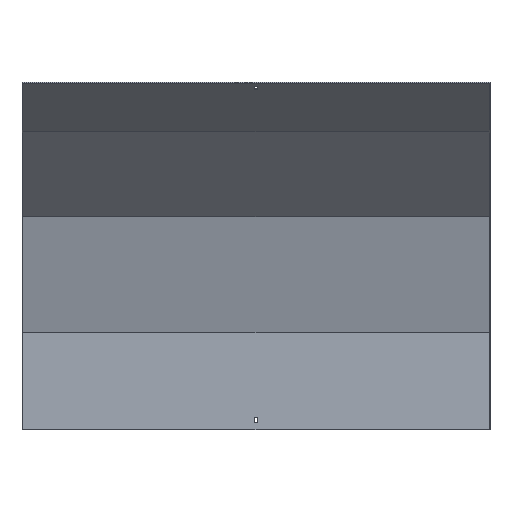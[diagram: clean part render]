
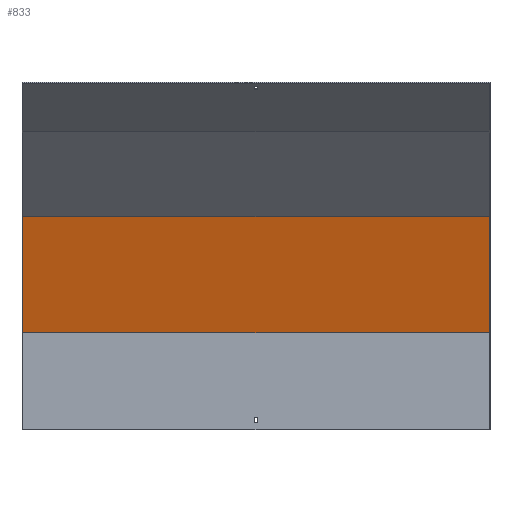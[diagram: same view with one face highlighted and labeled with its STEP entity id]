
A CAD part, front view. The second image highlights one B-rep face of the part: STEP entity #833.
In plain terms, the highlighted planar face has unit normal (0, -0.966, -0.259).
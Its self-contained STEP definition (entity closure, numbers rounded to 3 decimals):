
#48 = PLANE ( 'NONE',  #575 ) ;
#51 = CARTESIAN_POINT ( 'NONE',  ( 401.5, 18.5, 166.436 ) ) ;
#64 = VERTEX_POINT ( 'NONE', #978 ) ;
#65 = LINE ( 'NONE', #471, #254 ) ;
#69 = DIRECTION ( 'NONE',  ( 0., 0.259, -0.966 ) ) ;
#102 = VERTEX_POINT ( 'NONE', #615 ) ;
#114 = EDGE_CURVE ( 'NONE', #102, #167, #65, .T. ) ;
#152 = CARTESIAN_POINT ( 'NONE',  ( -400., 18.5, 166.436 ) ) ;
#162 = LINE ( 'NONE', #791, #794 ) ;
#167 = VERTEX_POINT ( 'NONE', #777 ) ;
#209 = VECTOR ( 'NONE', #592, 1000. ) ;
#226 = EDGE_LOOP ( 'NONE', ( #334, #610, #366, #644 ) ) ;
#254 = VECTOR ( 'NONE', #534, 1000. ) ;
#288 = LINE ( 'NONE', #683, #448 ) ;
#334 = ORIENTED_EDGE ( 'NONE', *, *, #792, .F. ) ;
#366 = ORIENTED_EDGE ( 'NONE', *, *, #114, .T. ) ;
#379 = DIRECTION ( 'NONE',  ( 0., -0.966, -0.259 ) ) ;
#448 = VECTOR ( 'NONE', #531, 1000. ) ;
#471 = CARTESIAN_POINT ( 'NONE',  ( 400., 58.87, 15.774 ) ) ;
#526 = EDGE_CURVE ( 'NONE', #167, #64, #162, .T. ) ;
#531 = DIRECTION ( 'NONE',  ( 0., -0.259, 0.966 ) ) ;
#534 = DIRECTION ( 'NONE',  ( 0., -0.259, 0.966 ) ) ;
#543 = DIRECTION ( 'NONE',  ( -1., 0., 0. ) ) ;
#552 = VERTEX_POINT ( 'NONE', #152 ) ;
#575 = AXIS2_PLACEMENT_3D ( 'NONE', #593, #379, #69 ) ;
#592 = DIRECTION ( 'NONE',  ( -1., 0., 0. ) ) ;
#593 = CARTESIAN_POINT ( 'NONE',  ( 401.5, 17.87, 168.788 ) ) ;
#610 = ORIENTED_EDGE ( 'NONE', *, *, #896, .F. ) ;
#615 = CARTESIAN_POINT ( 'NONE',  ( 400., 18.5, 166.436 ) ) ;
#644 = ORIENTED_EDGE ( 'NONE', *, *, #526, .T. ) ;
#669 = FACE_OUTER_BOUND ( 'NONE', #226, .T. ) ;
#683 = CARTESIAN_POINT ( 'NONE',  ( -400., 58.87, 15.774 ) ) ;
#777 = CARTESIAN_POINT ( 'NONE',  ( 400., -34.918, 365.796 ) ) ;
#791 = CARTESIAN_POINT ( 'NONE',  ( 401.5, -34.918, 365.796 ) ) ;
#792 = EDGE_CURVE ( 'NONE', #552, #64, #288, .T. ) ;
#794 = VECTOR ( 'NONE', #543, 1000. ) ;
#833 = ADVANCED_FACE ( 'NONE', ( #669 ), #48, .T. ) ;
#896 = EDGE_CURVE ( 'NONE', #102, #552, #963, .T. ) ;
#963 = LINE ( 'NONE', #51, #209 ) ;
#978 = CARTESIAN_POINT ( 'NONE',  ( -400., -34.918, 365.796 ) ) ;
